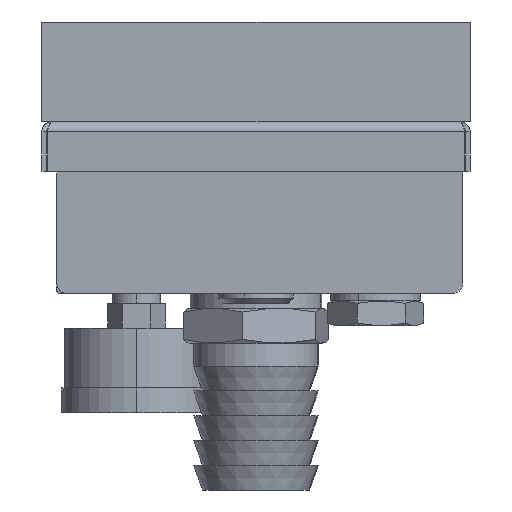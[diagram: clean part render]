
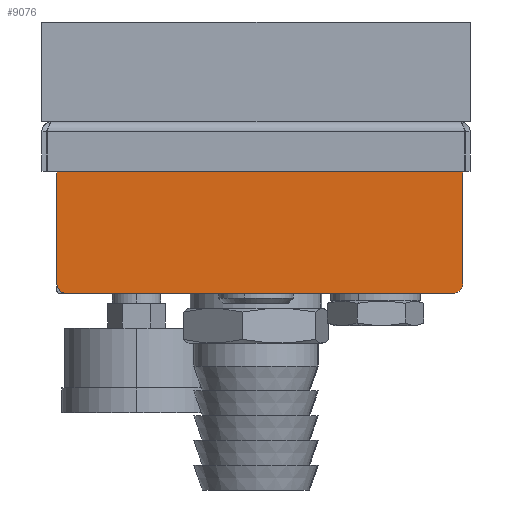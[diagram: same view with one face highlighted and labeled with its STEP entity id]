
A CAD part, front view. The second image highlights one B-rep face of the part: STEP entity #9076.
In plain terms, the highlighted planar face has unit normal (0, -1, 0).
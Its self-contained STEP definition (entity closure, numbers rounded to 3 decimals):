
#244 = LINE ( 'NONE', #10227, #273 ) ;
#247 = LINE ( 'NONE', #10142, #257 ) ;
#257 = VECTOR ( 'NONE', #10212, 1000. ) ;
#273 = VECTOR ( 'NONE', #10274, 1000. ) ;
#337 = LINE ( 'NONE', #10124, #349 ) ;
#348 = CIRCLE ( 'NONE', #7854, 2. ) ;
#349 = VECTOR ( 'NONE', #10192, 1000. ) ;
#1507 = VERTEX_POINT ( 'NONE', #12421 ) ;
#1521 = VERTEX_POINT ( 'NONE', #12438 ) ;
#1522 = VERTEX_POINT ( 'NONE', #12439 ) ;
#1524 = VERTEX_POINT ( 'NONE', #12441 ) ;
#1621 = ORIENTED_EDGE ( 'NONE', *, *, #8118, .F. ) ;
#1622 = ORIENTED_EDGE ( 'NONE', *, *, #8225, .F. ) ;
#1631 = ORIENTED_EDGE ( 'NONE', *, *, #7926, .F. ) ;
#1652 = ORIENTED_EDGE ( 'NONE', *, *, #8926, .F. ) ;
#1657 = ORIENTED_EDGE ( 'NONE', *, *, #7936, .F. ) ;
#1659 = ORIENTED_EDGE ( 'NONE', *, *, #7911, .F. ) ;
#1663 = ORIENTED_EDGE ( 'NONE', *, *, #7928, .F. ) ;
#1666 = ORIENTED_EDGE ( 'NONE', *, *, #8076, .F. ) ;
#1706 = VERTEX_POINT ( 'NONE', #12456 ) ;
#2381 = VERTEX_POINT ( 'NONE', #12459 ) ;
#2497 = VERTEX_POINT ( 'NONE', #12466 ) ;
#2553 = VERTEX_POINT ( 'NONE', #12461 ) ;
#3238 = EDGE_LOOP ( 'NONE', ( #1622, #1621, #1631, #1663, #1666, #1659, #1652, #1657 ) ) ;
#4137 = CARTESIAN_POINT ( 'NONE',  ( 16.366, -176.63, 35.694 ) ) ;
#4138 = DIRECTION ( 'NONE',  ( 0., 1., 0. ) ) ;
#4139 = DIRECTION ( 'NONE',  ( -1., 0., 0. ) ) ;
#6206 = AXIS2_PLACEMENT_3D ( 'NONE', #11160, #11159, #11158 ) ;
#6810 = VECTOR ( 'NONE', #11423, 1000. ) ;
#6811 = LINE ( 'NONE', #11392, #6810 ) ;
#6838 = CIRCLE ( 'NONE', #8495, 2. ) ;
#6939 = CIRCLE ( 'NONE', #7845, 2. ) ;
#7653 = CIRCLE ( 'NONE', #8310, 2. ) ;
#7845 = AXIS2_PLACEMENT_3D ( 'NONE', #11359, #11360, #11361 ) ;
#7854 = AXIS2_PLACEMENT_3D ( 'NONE', #10265, #10253, #10270 ) ;
#7911 = EDGE_CURVE ( 'NONE', #1524, #2497, #337, .T. ) ;
#7926 = EDGE_CURVE ( 'NONE', #1522, #1521, #348, .T. ) ;
#7928 = EDGE_CURVE ( 'NONE', #1507, #1522, #244, .T. ) ;
#7936 = EDGE_CURVE ( 'NONE', #2553, #1706, #247, .T. ) ;
#8076 = EDGE_CURVE ( 'NONE', #2497, #1507, #6939, .T. ) ;
#8118 = EDGE_CURVE ( 'NONE', #1521, #2381, #6811, .T. ) ;
#8225 = EDGE_CURVE ( 'NONE', #2381, #2553, #6838, .T. ) ;
#8310 = AXIS2_PLACEMENT_3D ( 'NONE', #4137, #4138, #4139 ) ;
#8495 = AXIS2_PLACEMENT_3D ( 'NONE', #11407, #11410, #11408 ) ;
#8926 = EDGE_CURVE ( 'NONE', #1706, #1524, #7653, .T. ) ;
#9076 = ADVANCED_FACE ( 'NONE', ( #13029 ), #10319, .T. ) ;
#10124 = CARTESIAN_POINT ( 'NONE',  ( 16.366, -176.63, 37.694 ) ) ;
#10142 = CARTESIAN_POINT ( 'NONE',  ( 14.366, -176.63, 9.694 ) ) ;
#10192 = DIRECTION ( 'NONE',  ( 1., 0., 0. ) ) ;
#10212 = DIRECTION ( 'NONE',  ( 0., 0., 1. ) ) ;
#10227 = CARTESIAN_POINT ( 'NONE',  ( 95.866, -176.63, 9.694 ) ) ;
#10253 = DIRECTION ( 'NONE',  ( 0., 1., 0. ) ) ;
#10265 = CARTESIAN_POINT ( 'NONE',  ( 93.866, -176.63, 9.694 ) ) ;
#10270 = DIRECTION ( 'NONE',  ( 1., 0., 0. ) ) ;
#10274 = DIRECTION ( 'NONE',  ( 0., 0., -1. ) ) ;
#10319 = PLANE ( 'NONE',  #6206 ) ;
#11158 = DIRECTION ( 'NONE',  ( -1., 0., 0. ) ) ;
#11159 = DIRECTION ( 'NONE',  ( 0., -1., 0. ) ) ;
#11160 = CARTESIAN_POINT ( 'NONE',  ( 16.366, -176.63, 9.694 ) ) ;
#11359 = CARTESIAN_POINT ( 'NONE',  ( 93.866, -176.63, 35.694 ) ) ;
#11360 = DIRECTION ( 'NONE',  ( 0., 1., 0. ) ) ;
#11361 = DIRECTION ( 'NONE',  ( 1., 0., 0. ) ) ;
#11392 = CARTESIAN_POINT ( 'NONE',  ( 16.366, -176.63, 7.694 ) ) ;
#11407 = CARTESIAN_POINT ( 'NONE',  ( 16.366, -176.63, 9.694 ) ) ;
#11408 = DIRECTION ( 'NONE',  ( -1., 0., 0. ) ) ;
#11410 = DIRECTION ( 'NONE',  ( 0., 1., 0. ) ) ;
#11423 = DIRECTION ( 'NONE',  ( -1., 0., 0. ) ) ;
#12421 = CARTESIAN_POINT ( 'NONE',  ( 95.866, -176.63, 35.694 ) ) ;
#12438 = CARTESIAN_POINT ( 'NONE',  ( 93.866, -176.63, 7.694 ) ) ;
#12439 = CARTESIAN_POINT ( 'NONE',  ( 95.866, -176.63, 9.694 ) ) ;
#12441 = CARTESIAN_POINT ( 'NONE',  ( 16.366, -176.63, 37.694 ) ) ;
#12456 = CARTESIAN_POINT ( 'NONE',  ( 14.366, -176.63, 35.694 ) ) ;
#12459 = CARTESIAN_POINT ( 'NONE',  ( 16.366, -176.63, 7.694 ) ) ;
#12461 = CARTESIAN_POINT ( 'NONE',  ( 14.366, -176.63, 9.694 ) ) ;
#12466 = CARTESIAN_POINT ( 'NONE',  ( 93.866, -176.63, 37.694 ) ) ;
#13029 = FACE_OUTER_BOUND ( 'NONE', #3238, .T. ) ;
